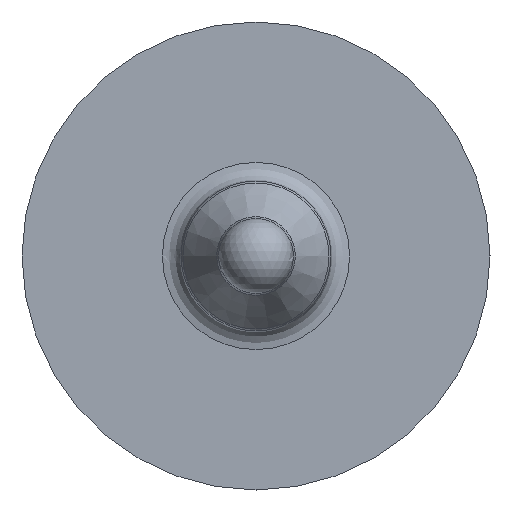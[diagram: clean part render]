
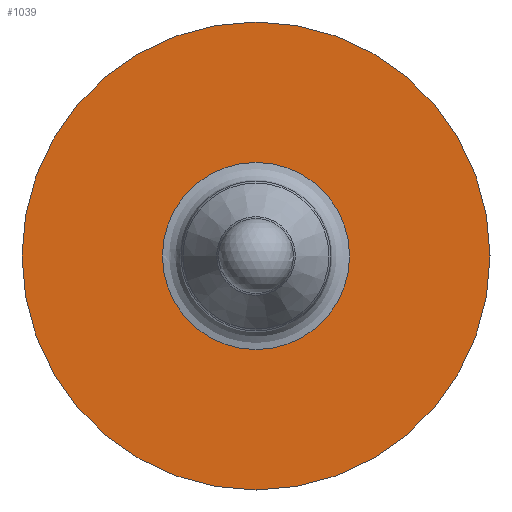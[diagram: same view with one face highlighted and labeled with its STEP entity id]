
A CAD part, front view. The second image highlights one B-rep face of the part: STEP entity #1039.
In plain terms, the highlighted planar face has unit normal (0, -1, 0).
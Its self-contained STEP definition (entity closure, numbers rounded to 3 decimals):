
#479=CARTESIAN_POINT('',(-12.5,35.,0.0));
#480=VERTEX_POINT('',#479);
#481=CARTESIAN_POINT('',(0.,35.,0.0));
#482=DIRECTION('',(0.0,1.0,0.0));
#483=DIRECTION('',(-1.0,0.0,0.0));
#484=AXIS2_PLACEMENT_3D('',#481,#482,#483);
#485=CIRCLE('',#484,12.5);
#486=EDGE_CURVE('',#480,#480,#485,.T.);
#1013=CARTESIAN_POINT('',(-5.,35.,0.0));
#1014=VERTEX_POINT('',#1013);
#1015=CARTESIAN_POINT('',(0.,35.,0.0));
#1016=DIRECTION('',(0.0,1.0,0.0));
#1017=DIRECTION('',(-1.0,0.0,0.0));
#1018=AXIS2_PLACEMENT_3D('',#1015,#1016,#1017);
#1019=CIRCLE('',#1018,5.);
#1020=EDGE_CURVE('',#1014,#1014,#1019,.T.);
#1028=CARTESIAN_POINT('',(-8.75,35.,0.0));
#1029=DIRECTION('',(0.0,-1.0,0.0));
#1030=DIRECTION('',(0.0,0.0,-1.0));
#1031=AXIS2_PLACEMENT_3D('',#1028,#1029,#1030);
#1032=PLANE('',#1031);
#1033=ORIENTED_EDGE('',*,*,#486,.F.);
#1034=EDGE_LOOP('',(#1033));
#1035=FACE_OUTER_BOUND('',#1034,.T.);
#1036=ORIENTED_EDGE('',*,*,#1020,.T.);
#1037=EDGE_LOOP('',(#1036));
#1038=FACE_BOUND('',#1037,.T.);
#1039=ADVANCED_FACE('',(#1035,#1038),#1032,.T.);
